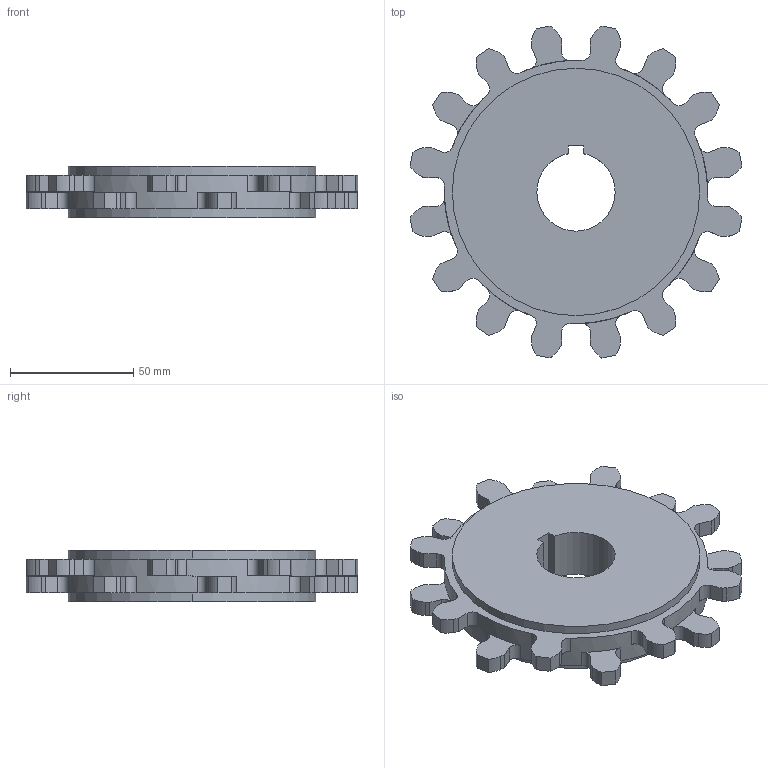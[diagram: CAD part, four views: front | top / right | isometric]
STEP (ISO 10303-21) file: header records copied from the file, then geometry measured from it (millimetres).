
FILE_DESCRIPTION((''),'2;1');
FILE_NAME('S2700_SPROCKET_52_RND','2008-12-12T',('jmumphre'),(''),'PRO/ENGINEER BY PARAMETRIC TECHNOLOGY CORPORATION, 2008150','PRO/ENGINEER BY PARAMETRIC TECHNOLOGY CORPORATION, 2008150','');
FILE_SCHEMA(('CONFIG_CONTROL_DESIGN'));
Length unit declared in the file: inch
Products named in the file (1): S2700_SPROCKET_52_RND
Bounding box: 134.6 x 134.6 x 20.83 mm (x, y, z)
Volume: 179165.8 mm3; surface area: 33126.9 mm2
Topology: 1 solids, 1 shells, 174 faces, 510 edges, 340 vertices
Faces by surface type: plane 103, cylinder 71
Entity records: 5872 total; most frequent: DIRECTION 1032, CARTESIAN_POINT 1024, ORIENTED_EDGE 1020, EDGE_CURVE 510, AXIS2_PLACEMENT_3D 348, VERTEX_POINT 340, VECTOR 336, LINE 336
